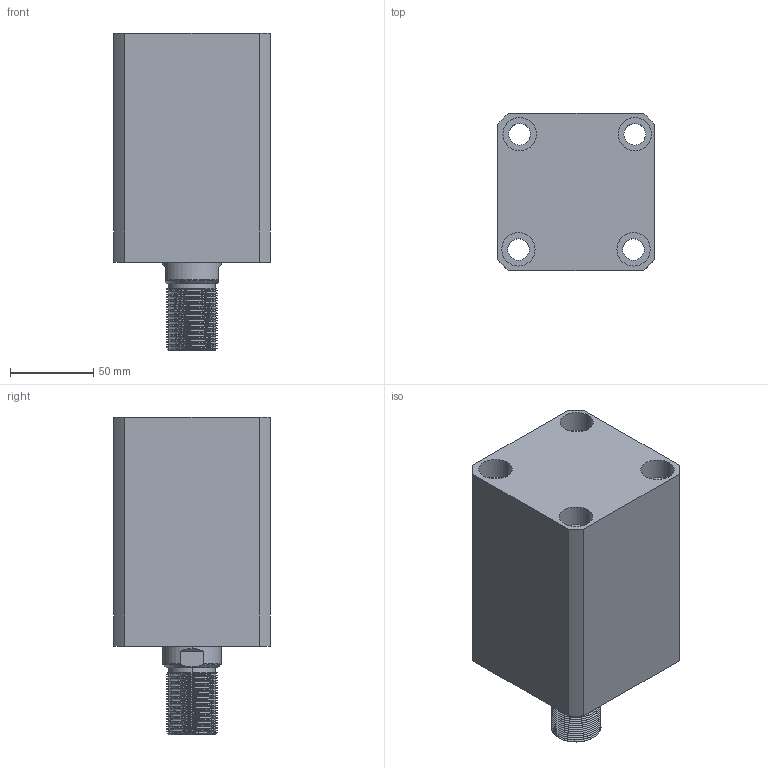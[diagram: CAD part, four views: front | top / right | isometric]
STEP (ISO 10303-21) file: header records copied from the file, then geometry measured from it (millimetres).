
FILE_DESCRIPTION (( 'STEP AP214' ), '1' );
FILE_NAME ('chtb-sdma63x70w_asm.STEP', '2018-05-18T09:39:42', ( 'Windows' ), ( 'Microsoft' ), 'SwSTEP 2.0', 'SolidWorks 2015', '' );
FILE_SCHEMA (( 'AUTOMOTIVE_DESIGN' ));
Length unit declared in the file: millimetre
Products named in the file (4): CHTB63X70WHSG; CHTB-63QG; chtb-sdma63x70w_asm; CHTB-SDMA63X70NBT
Assembly tree (3 placements, depth 2):
  chtb-sdma63x70w_asm
    CHTB-63QG
    CHTB63X70WHSG
    CHTB-SDMA63X70NBT
Bounding box: 94 x 94 x 190 mm (x, y, z)
Volume: 992964.5 mm3; surface area: 167536.8 mm2
Topology: 3 solids, 3 shells, 219 faces, 632 edges, 430 vertices
Faces by surface type: cylinder 156, plane 34, bspline 14, cone 9, torus 6
Entity records: 22297 total; most frequent: CARTESIAN_POINT 17024, ORIENTED_EDGE 1256, DIRECTION 878, EDGE_CURVE 628, VERTEX_POINT 430, AXIS2_PLACEMENT_3D 343, EDGE_LOOP 252, ADVANCED_FACE 219
